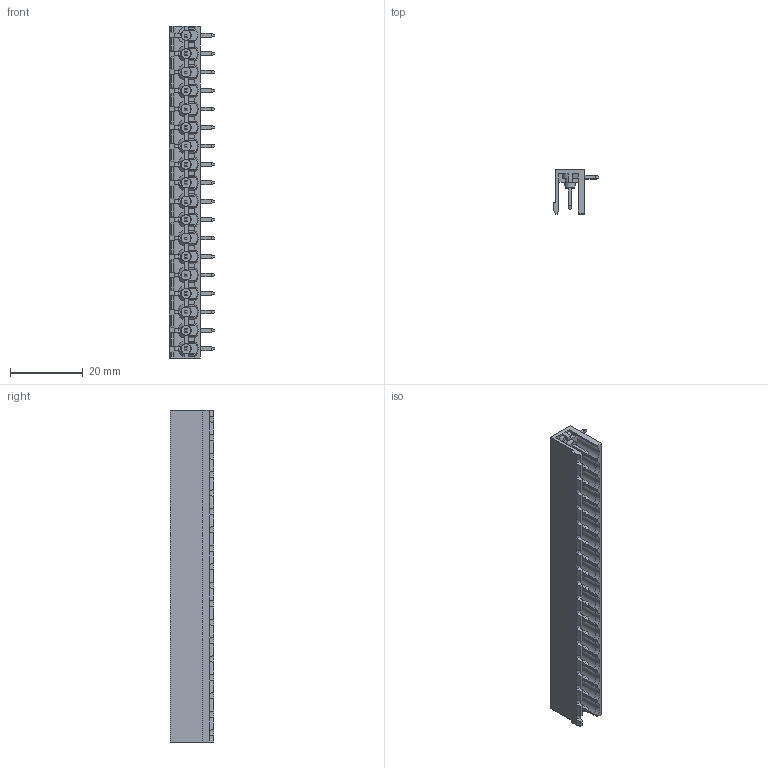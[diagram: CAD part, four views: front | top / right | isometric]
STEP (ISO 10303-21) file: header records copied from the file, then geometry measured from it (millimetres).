
FILE_DESCRIPTION (( 'STEP AP203' ), '1' );
FILE_NAME ('BR8MN1-18.STEP', '2020-03-18T03:14:49', ( '' ), ( '' ), 'SwSTEP 2.0', 'SolidWorks 2019', '' );
FILE_SCHEMA (( 'CONFIG_CONTROL_DESIGN' ));
Length unit declared in the file: millimetre
Products named in the file (1): BR8MN1-18
Bounding box: 12.5 x 12 x 91.44 mm (x, y, z)
Volume: 3490.6 mm3; surface area: 7774.6 mm2
Topology: 1 solids, 1 shells, 1513 faces, 3942 edges, 2431 vertices
Faces by surface type: plane 1299, cylinder 91, cone 87, sphere 36
Entity records: 44948 total; most frequent: CARTESIAN_POINT 8590, ORIENTED_EDGE 7740, DIRECTION 7085, EDGE_CURVE 3870, VECTOR 3301, LINE 3301, VERTEX_POINT 2395, AXIS2_PLACEMENT_3D 1892
